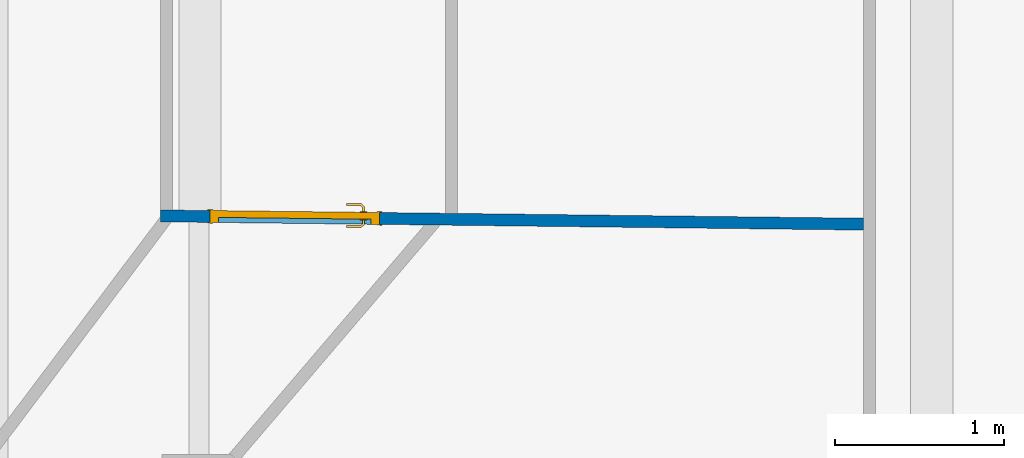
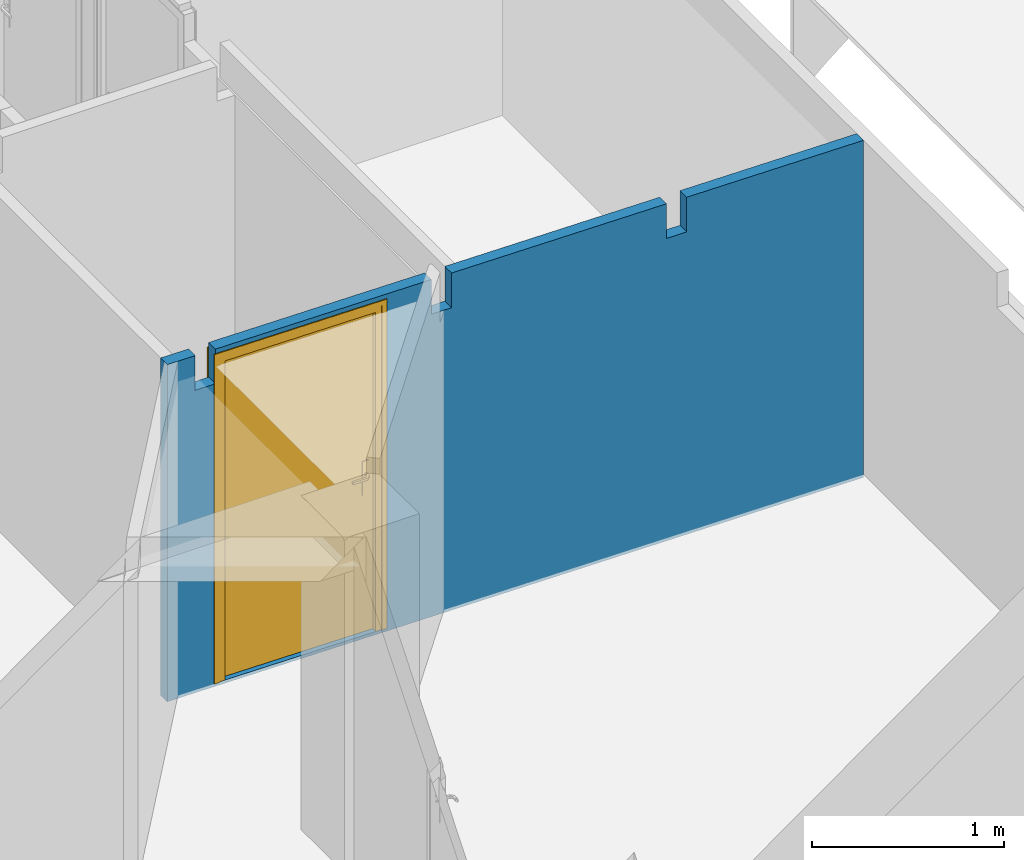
# One storey, part 14 of 32: 1 door, 1 wall, 1 opening.
"""IFC4 building model written with IfcOpenShell, lengths in metres."""

from ifc_helpers import new_model, entity, si_unit, converted_unit, derived_unit, direction, frame, origin, place, context, subcontext, project, spatial, indexed_curve, outline, extrude, polygons, source, transform, mapped, material, material_list, layer, layer_set, constituent, constituent_set, type_object, type_shapes, element, fill, save


model = new_model("IFC4")

# Units and contexts
model_context = context("Model", 3, precision=1e-05, world=origin(), true_north=direction((6.12303176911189e-17, 1.0)))
body_context = subcontext(model_context, "Body", "Model", "MODEL_VIEW")
ifc_project = project(units=[si_unit("LENGTHUNIT", "METRE"), si_unit("AREAUNIT", "SQUARE_METRE"), si_unit("VOLUMEUNIT", "CUBIC_METRE"), converted_unit("PLANEANGLEUNIT", "DEGREE", entity("IfcRatioMeasure", 0.0174532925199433), si_unit("PLANEANGLEUNIT", "RADIAN"), dimensions=[0, 0, 0, 0, 0, 0, 0]), si_unit("MASSUNIT", "GRAM", prefix="KILO"), derived_unit("MASSDENSITYUNIT", [(si_unit("MASSUNIT", "GRAM", prefix="KILO"), 1), (si_unit("LENGTHUNIT", "METRE"), -3)]), derived_unit("MOMENTOFINERTIAUNIT", [(si_unit("LENGTHUNIT", "METRE"), 4)]), si_unit("TIMEUNIT", "SECOND"), si_unit("FREQUENCYUNIT", "HERTZ"), si_unit("THERMODYNAMICTEMPERATUREUNIT", "DEGREE_CELSIUS"), derived_unit("THERMALTRANSMITTANCEUNIT", [(si_unit("MASSUNIT", "GRAM", prefix="KILO"), 1), (si_unit("THERMODYNAMICTEMPERATUREUNIT", "KELVIN"), -1), (si_unit("TIMEUNIT", "SECOND"), -3)]), derived_unit("VOLUMETRICFLOWRATEUNIT", [(si_unit("LENGTHUNIT", "METRE"), 3), (si_unit("TIMEUNIT", "SECOND"), -1)]), si_unit("ELECTRICCURRENTUNIT", "AMPERE"), si_unit("ELECTRICVOLTAGEUNIT", "VOLT"), si_unit("POWERUNIT", "WATT"), si_unit("FORCEUNIT", "NEWTON", prefix="KILO"), si_unit("ILLUMINANCEUNIT", "LUX"), si_unit("LUMINOUSFLUXUNIT", "LUMEN"), si_unit("LUMINOUSINTENSITYUNIT", "CANDELA"), derived_unit("USERDEFINED", [(si_unit("MASSUNIT", "GRAM", prefix="KILO"), -1), (si_unit("LENGTHUNIT", "METRE"), -2), (si_unit("TIMEUNIT", "SECOND"), 3), (si_unit("LUMINOUSFLUXUNIT", "LUMEN"), 1)]), derived_unit("LINEARVELOCITYUNIT", [(si_unit("LENGTHUNIT", "METRE"), 1), (si_unit("TIMEUNIT", "SECOND"), -1)]), si_unit("PRESSUREUNIT", "PASCAL"), derived_unit("USERDEFINED", [(si_unit("LENGTHUNIT", "METRE"), -2), (si_unit("MASSUNIT", "GRAM", prefix="KILO"), 1), (si_unit("TIMEUNIT", "SECOND"), -2)]), derived_unit("LINEARFORCEUNIT", [(si_unit("MASSUNIT", "GRAM", prefix="KILO"), 1), (si_unit("LENGTHUNIT", "METRE"), 1), (si_unit("TIMEUNIT", "SECOND"), -2), (si_unit("LENGTHUNIT", "METRE"), -1)]), derived_unit("PLANARFORCEUNIT", [(si_unit("MASSUNIT", "GRAM", prefix="KILO"), 1), (si_unit("LENGTHUNIT", "METRE"), 1), (si_unit("TIMEUNIT", "SECOND"), -2), (si_unit("LENGTHUNIT", "METRE"), -2)])], contexts=[model_context])

# Site, building, storey
site_placement = place(None, origin())
site = spatial("IfcSite", under=ifc_project, at=site_placement, Name="Default", CompositionType="ELEMENT")
building_placement = place(site_placement, origin())
building = spatial("IfcBuilding", under=site, at=building_placement, Name="HOTEL CONSULAIRE BOULOGNE SUR MER", CompositionType="ELEMENT")
storey_placement = place(building_placement, frame((0.0, 0.0, -2.70343668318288)))
storey = spatial("IfcBuildingStorey", under=building, at=storey_placement, Name="SS1", CompositionType="ELEMENT", Elevation=-2.70343668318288)

# Wall, opening, door
ifc_material_1 = material(Name="Mur par défaut", Category="Divers")
ifc_layer = layer(ifc_material_1, 0.07, Name="Mur par défaut", Category="Divers")
ifc_layer_set = layer_set([ifc_layer], Name="Mur de base:Générique - Int. 70 mm")
wall_type = type_object("IfcWallType", Name="Mur de base:Générique - Int. 70 mm", PredefinedType="NOTDEFINED", material=ifc_layer_set)
wall_placement = place(storey_placement, frame((11.0826384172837, -18.243371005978, 0.294), z_axis=(0.0, 0.0, 1.0), x_axis=(-0.999930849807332, 0.0117599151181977, 0.0)))
wall = element("IfcWall", 1, at=wall_placement, inside=storey, type_object=wall_type, material=ifc_layer_set, Name="Mur de base:Générique - Int. 70 mm", ObjectType="Mur de base:Générique - Int. 70 mm", PredefinedType="NOTDEFINED", context=body_context, shape_type="Tessellation", body=[
    polygons([(3.86418002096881, -0.0349999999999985, 2.13943668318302), (3.86335676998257, 0.0349999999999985, 2.13943668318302), (3.81035310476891, 0.0349999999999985, 2.13943668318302), (2.57538322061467, 0.0349999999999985, 2.13943668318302), (2.57552173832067, 0.0232220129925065, 2.13943668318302), (2.57620647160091, -0.0349999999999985, 2.13943668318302), (2.45619817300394, -0.0350000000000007, 2.13943668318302), (2.45553003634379, 0.0218108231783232, 2.13943668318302), (2.4553749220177, 0.0349999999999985, 2.13943668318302), (1.17428633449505, 0.0350000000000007, 2.13943668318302), (1.17442177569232, 0.0234836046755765, 2.13943668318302), (1.17510958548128, -0.0350000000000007, 2.13943668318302), (2.39861192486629, -0.0349999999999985, 2.13943668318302), (-9.81348335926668e-16, 0.0350000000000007, 2.13943668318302), (0.000823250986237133, -0.0349999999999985, 2.13943668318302), (1.05510128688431, -0.0349999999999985, 2.13943668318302), (1.05443007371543, 0.0220724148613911, 2.13943668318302), (1.05427803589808, 0.0349999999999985, 2.13943668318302), (0.000823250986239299, -0.0349999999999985, 2.70716782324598e-16), (4.15073308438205, -0.0350000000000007, 2.70716782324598e-16), (4.15073308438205, -0.0350000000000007, 0.0199904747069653), (4.15073308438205, -0.0350000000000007, 2.13943668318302), (4.08072824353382, -0.0349999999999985, 2.13943668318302), (3.98418831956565, -0.0350000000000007, 2.13943668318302), (3.98418831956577, -0.0349999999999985, 1.91943668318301), (3.86418002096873, -0.0349999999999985, 1.91943668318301), (2.57620647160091, -0.0349999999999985, 1.91943668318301), (2.46861676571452, -0.0349999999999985, 1.91943668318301), (2.45619817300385, -0.0350000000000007, 1.91943668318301), (1.17510958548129, -0.0349999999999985, 1.91943668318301), (1.05510128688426, -0.0349999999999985, 1.91943668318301), (3.85739392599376, -0.0349999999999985, 2.095), (3.85739392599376, -0.0349999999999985, 0.0199999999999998), (2.85739392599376, -0.0350000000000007, 0.0199999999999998), (2.85739392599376, -0.0350000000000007, 2.095), (4.14990983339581, 0.0349999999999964, 2.70716782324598e-16), (1.18438592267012e-15, 0.0350000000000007, 2.70716782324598e-16), (1.05427803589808, 0.0349999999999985, 1.91943668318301), (1.17428633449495, 0.0349999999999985, 1.91943668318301), (2.4553749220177, 0.0349999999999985, 1.91943668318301), (2.4994257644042, 0.0350000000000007, 1.91943668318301), (2.57538322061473, 0.0349999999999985, 1.91943668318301), (3.86335676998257, 0.0349999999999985, 1.91943668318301), (3.98336506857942, 0.0349999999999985, 1.91943668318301), (3.98336506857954, 0.0350000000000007, 2.13943668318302), (4.08628885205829, 0.0349999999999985, 2.13943668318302), (4.14990983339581, 0.0349999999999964, 2.13943668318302), (4.14990983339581, 0.0349999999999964, 0.0199904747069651), (3.85739392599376, 0.0350000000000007, 0.0199999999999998), (3.85739392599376, 0.0350000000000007, 2.095), (2.85739392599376, 0.0349999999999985, 2.095), (2.85739392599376, 0.0349999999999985, 0.0199999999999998), (4.1502760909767, 0.00385757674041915, 2.13943668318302), (2.45553003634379, 0.0218108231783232, 1.91943668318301), (2.57552173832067, 0.0232220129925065, 1.91943668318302), (1.05443007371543, 0.0220724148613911, 1.91943668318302), (1.17442177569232, 0.0234836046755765, 1.91943668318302)], [[[6, 1, 2, 3, 4, 5]], [[13, 7, 8, 9, 10, 11, 12]], [[15, 16, 17, 18, 14]], [[23, 22, 53, 47, 46, 45, 24]], [[49, 52, 34, 33]], [[44, 43, 26, 25]], [[28, 27, 55, 42, 41, 40, 54, 29]], [[31, 30, 57, 39, 38, 56]], [[19, 20, 21, 22, 23, 24, 25, 26, 1, 6, 27, 28, 29, 7, 13, 12, 30, 31, 16, 15], [34, 35, 32, 33]], [[48, 36, 37, 14, 18, 38, 39, 10, 9, 40, 41, 42, 4, 3, 2, 43, 44, 45, 46, 47], [49, 50, 51, 52]], [[20, 19, 37, 36]], [[51, 50, 32, 35]], [[37, 19, 15, 14]], [[44, 25, 24, 45]], [[55, 27, 6, 5, 4, 42]], [[57, 30, 12, 11, 10, 39]], [[50, 49, 33, 32]], [[52, 51, 35, 34]], [[21, 20, 36, 48, 47, 53, 22]], [[2, 1, 26, 43]], [[8, 7, 29, 54, 40, 9]], [[17, 16, 31, 56, 38, 18]]], closed=True),
])
opening_placement = place(wall_placement, frame((3.85739392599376, 0.035, 0.0199999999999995)))
opening = element("IfcOpeningElement", 2, at=opening_placement, cuts=wall, Name="Int. Simple:PP0.93x2.04:1", ObjectType="Opening", PredefinedType="OPENING", context=body_context, shape_type="SweptSolid", body=[
    extrude(outline(indexed_curve([(0.0, 0.0), (2.075, 0.0), (2.075, 1.0), (0.0, 1.0), (0.0, 0.0)], self_intersect=False)), frame((0.0, 0.0, 0.0), z_axis=(0.0, -1.0, 0.0), x_axis=(0.0, 0.0, 1.0)), (0.0, 0.0, 1.0), 0.07),
])
ifc_material_2 = material(Name="Finition Peinture - Blanc satiné", Category="Peinture")
ifc_constituent_1 = constituent(ifc_material_2, Name="Finition Peinture - Blanc satiné", Category="Matériaux")
ifc_material_3 = material(Name="Bois - Panneau de porte", Category="Bois")
ifc_constituent_2 = constituent(ifc_material_3, Name="Bois - Panneau de porte", Category="Matériaux")
ifc_material_4 = material(Name="Bois - Cadre de porte", Category="Bois")
ifc_constituent_3 = constituent(ifc_material_4, Name="Bois - Cadre de porte", Category="Matériaux")
ifc_constituent_set = constituent_set(constituents=[ifc_constituent_1, ifc_constituent_2, ifc_constituent_3], Name="MaterialConstituentSet")
ifc_material_list = material_list([ifc_material_2, ifc_material_4, ifc_material_4, ifc_material_3])
door_type = type_object("IfcDoorType", Name="Int. Simple:PP0.93x2.04", OperationType="NOTDEFINED", PredefinedType="DOOR", material=ifc_material_list)
shared_shape = source(origin(), body_context, "Body", "Tessellation", [
    polygons([(0.075000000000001, -0.00500000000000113, 0.870000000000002), (0.0846472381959, -0.00500000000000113, 0.866003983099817), (0.0950000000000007, -0.00500000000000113, 0.86464101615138), (0.105352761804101, -0.00500000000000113, 0.866003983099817), (0.115, -0.00500000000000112, 0.870000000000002), (0.114999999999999, -0.00500000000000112, 1.08), (0.1053527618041, -0.00500000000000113, 1.08399601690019), (0.0949999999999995, -0.00500000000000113, 1.08535898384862), (0.0846472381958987, -0.00500000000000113, 1.08399601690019), (0.0749999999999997, -0.00500000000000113, 1.08), (0.0749999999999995, -1.1420864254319e-15, 0.870000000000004), (0.0749999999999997, -1.1420864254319e-15, 1.08), (0.0846472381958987, -1.13785647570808e-15, 1.08399601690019), (0.0949999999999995, -1.13362652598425e-15, 1.08535898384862), (0.1053527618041, -1.12939657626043e-15, 1.08399601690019), (0.114999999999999, -1.12516662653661e-15, 1.08), (0.115, -1.12516662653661e-15, 0.870000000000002), (0.105352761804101, -1.12939657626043e-15, 0.866003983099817), (0.0950000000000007, -1.13362652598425e-15, 0.86464101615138), (0.0846472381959, -1.13785647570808e-15, 0.866003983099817)], [[[4, 5, 6, 7, 8, 9, 10, 1, 2, 3]], [[15, 16, 17, 18, 19, 20, 11, 12, 13, 14]], [[11, 20, 2, 1]], [[2, 20, 19, 3]], [[19, 18, 4, 3]], [[18, 17, 5, 4]], [[6, 5, 17, 16]], [[16, 15, 7, 6]], [[7, 15, 14, 8]], [[14, 13, 9, 8]], [[13, 12, 10, 9]], [[1, 10, 12, 11]]], closed=True),
    polygons([(0.114999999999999, 0.0399999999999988, 1.08), (0.1053527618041, 0.0399999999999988, 1.08399601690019), (0.0949999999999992, 0.0399999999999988, 1.08535898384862), (0.0846472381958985, 0.0399999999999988, 1.08399601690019), (0.0749999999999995, 0.0399999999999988, 1.08), (0.075000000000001, 0.0399999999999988, 0.870000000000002), (0.0846472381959, 0.0399999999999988, 0.866003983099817), (0.0950000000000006, 0.0399999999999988, 0.86464101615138), (0.105352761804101, 0.0399999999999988, 0.866003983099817), (0.115, 0.0399999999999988, 0.870000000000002), (0.114999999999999, 0.0449999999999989, 1.08), (0.115, 0.0449999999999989, 0.870000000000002), (0.105352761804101, 0.0449999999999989, 0.866003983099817), (0.0950000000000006, 0.0449999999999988, 0.86464101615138), (0.0846472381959, 0.0449999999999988, 0.866003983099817), (0.0749999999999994, 0.0449999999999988, 0.870000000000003), (0.0749999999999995, 0.0449999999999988, 1.08), (0.0846472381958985, 0.0449999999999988, 1.08399601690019), (0.0949999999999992, 0.0449999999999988, 1.08535898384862), (0.1053527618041, 0.0449999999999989, 1.08399601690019)], [[[9, 10, 1, 2, 3, 4, 5, 6, 7, 8]], [[20, 11, 12, 13, 14, 15, 16, 17, 18, 19]], [[11, 20, 2, 1]], [[2, 20, 19, 3]], [[19, 18, 4, 3]], [[18, 17, 5, 4]], [[6, 5, 17, 16]], [[16, 15, 7, 6]], [[7, 15, 14, 8]], [[14, 13, 9, 8]], [[13, 12, 10, 9]], [[1, 10, 12, 11]]], closed=True),
    polygons([(0.0889999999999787, -0.00500000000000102, 1.007), (0.0929747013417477, -0.005000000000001, 1.00778044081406), (0.097025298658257, -0.00500000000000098, 1.00778044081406), (0.101000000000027, -0.00500000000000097, 1.00699999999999), (0.101000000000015, -0.00500000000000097, 0.993000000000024), (0.0970252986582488, -0.00500000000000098, 0.992219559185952), (0.0929747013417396, -0.005000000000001, 0.99221955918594), (0.0889999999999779, -0.00500000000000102, 0.992999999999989), (0.0889999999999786, -0.0326509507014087, 1.007), (0.0929747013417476, -0.0310045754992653, 1.00778044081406), (0.0970252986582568, -0.029326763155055, 1.00778044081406), (0.101000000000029, -0.0276803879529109, 1.007), (0.101000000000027, -0.0276803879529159, 0.993000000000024), (0.0970252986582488, -0.0293267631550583, 0.992219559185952), (0.0929747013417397, -0.0310045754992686, 0.99221955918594), (0.0889999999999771, -0.0326509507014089, 0.992999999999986), (0.107377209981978, -0.0510281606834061, 1.007), (0.109023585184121, -0.0470534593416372, 1.00778044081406), (0.110701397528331, -0.043002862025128, 1.00778044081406), (0.112347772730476, -0.0390281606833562, 1.007), (0.112347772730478, -0.0390281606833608, 0.993000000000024), (0.110701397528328, -0.0430028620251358, 0.992219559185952), (0.109023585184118, -0.047053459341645, 0.99221955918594), (0.107377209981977, -0.0510281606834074, 0.992999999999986), (0.195018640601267, -0.0510281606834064, 1.00699999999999), (0.195018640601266, -0.0510281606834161, 0.992999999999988), (0.195018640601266, -0.0470534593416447, 0.99221955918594), (0.195018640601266, -0.0430028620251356, 0.992219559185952), (0.195018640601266, -0.039028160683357, 0.993000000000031), (0.195018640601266, -0.0390281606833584, 1.007), (0.195018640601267, -0.0430028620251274, 1.00778044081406), (0.195018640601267, -0.0470534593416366, 1.00778044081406), (0.147307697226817, -0.0510281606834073, 1.007), (0.152860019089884, -0.0450281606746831, 1.0078786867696), (0.15368320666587, -0.0390281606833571, 1.007), (0.147307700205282, -0.0510281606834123, 0.992999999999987), (0.152860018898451, -0.0450281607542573, 0.992121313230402), (0.153683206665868, -0.039028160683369, 0.993000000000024)], [[[2, 3, 4, 5, 6, 7, 8, 1]], [[21, 20, 35, 30, 29, 38]], [[9, 10, 2, 1]], [[10, 18, 19, 11, 3, 2]], [[11, 12, 4, 3]], [[5, 4, 12, 13]], [[26, 27, 28, 29, 30, 31, 32, 25]], [[13, 14, 6, 5]], [[14, 22, 23, 15, 7, 6]], [[15, 16, 8, 7]], [[1, 8, 16, 9]], [[17, 18, 10, 9]], [[19, 20, 12, 11]], [[13, 12, 20, 21]], [[21, 22, 14, 13]], [[23, 24, 16, 15]], [[9, 16, 24, 17]], [[33, 32, 34]], [[25, 32, 33]], [[18, 17, 33]], [[34, 35, 19]], [[20, 19, 35]], [[35, 31, 30]], [[32, 31, 34]], [[31, 35, 34]], [[18, 33, 34]], [[18, 34, 19]], [[38, 28, 37]], [[36, 37, 27]], [[21, 38, 22]], [[38, 29, 28]], [[26, 36, 27]], [[24, 23, 36]], [[36, 23, 37]], [[23, 22, 37]], [[22, 38, 37]], [[27, 37, 28]], [[17, 24, 36, 26, 25, 33]]], closed=True),
    polygons([(0.10100000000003, 0.044999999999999, 0.993000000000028), (0.101000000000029, 0.044999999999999, 1.007), (0.0970252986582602, 0.044999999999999, 1.00778044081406), (0.092974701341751, 0.044999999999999, 1.00778044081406), (0.0889999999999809, 0.044999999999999, 1.007), (0.0889999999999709, 0.044999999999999, 0.992999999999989), (0.0929747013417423, 0.044999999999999, 0.99221955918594), (0.0970252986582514, 0.044999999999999, 0.992219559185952), (0.10100000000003, 0.067485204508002, 0.993000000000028), (0.10100000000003, 0.0674852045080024, 1.007), (0.0970252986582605, 0.0691315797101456, 1.00778044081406), (0.0929747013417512, 0.0708093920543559, 1.00778044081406), (0.088999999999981, 0.0724557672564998, 1.007), (0.0889999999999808, 0.072455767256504, 0.992999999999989), (0.092974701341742, 0.0708093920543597, 0.99221955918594), (0.0970252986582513, 0.0691315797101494, 0.992219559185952), (0.112485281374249, 0.0789704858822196, 0.993000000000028), (0.112485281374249, 0.0789704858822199, 1.007), (0.110838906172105, 0.0829451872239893, 1.00778044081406), (0.109161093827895, 0.0869957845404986, 1.00778044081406), (0.107514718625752, 0.0909704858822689, 1.007), (0.107514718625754, 0.090970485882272, 0.992999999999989), (0.109161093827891, 0.0869957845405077, 0.99221955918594), (0.110838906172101, 0.0829451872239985, 0.992219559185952), (0.195045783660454, 0.078970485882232, 0.993000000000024), (0.195045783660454, 0.0829451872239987, 0.992219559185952), (0.195045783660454, 0.0869957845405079, 0.99221955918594), (0.195045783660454, 0.0909704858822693, 0.992999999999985), (0.195045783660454, 0.0909704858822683, 1.007), (0.195045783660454, 0.0869957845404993, 1.00778044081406), (0.195045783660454, 0.08294518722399, 1.00778044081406), (0.195045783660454, 0.0789704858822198, 1.007), (0.147445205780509, 0.0909704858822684, 1.007), (0.152942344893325, 0.0849704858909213, 1.0078786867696), (0.153765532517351, 0.0789704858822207, 1.007), (0.147445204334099, 0.0909704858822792, 0.992999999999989), (0.152942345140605, 0.0849704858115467, 0.992121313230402), (0.153765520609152, 0.0789704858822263, 0.993000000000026)], [[[4, 5, 6, 7, 8, 1, 2, 3]], [[18, 17, 38, 25, 32, 35]], [[2, 1, 9, 10]], [[25, 26, 27, 28, 29, 30, 31, 32]], [[10, 11, 3, 2]], [[11, 19, 20, 12, 4, 3]], [[12, 13, 5, 4]], [[6, 5, 13, 14]], [[14, 15, 7, 6]], [[15, 23, 24, 16, 8, 7]], [[16, 9, 1, 8]], [[10, 9, 17, 18]], [[18, 19, 11, 10]], [[20, 21, 13, 12]], [[14, 13, 21, 22]], [[22, 23, 15, 14]], [[24, 17, 9, 16]], [[35, 31, 34]], [[33, 34, 30]], [[18, 35, 19]], [[35, 32, 31]], [[29, 33, 30]], [[21, 20, 33]], [[33, 20, 34]], [[20, 19, 34]], [[19, 35, 34]], [[30, 34, 31]], [[21, 33, 29, 28, 36, 22]], [[36, 27, 37]], [[28, 27, 36]], [[23, 22, 36]], [[37, 38, 24]], [[17, 24, 38]], [[38, 26, 25]], [[27, 26, 37]], [[26, 38, 37]], [[23, 36, 37]], [[23, 37, 24]]], closed=True),
    polygons([(0.0349999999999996, 0.04, 2.04), (0.965, 0.04, 2.04), (0.965, 0.04, 0.0), (0.0349999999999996, 0.04, 0.0), (0.0349999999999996, -4.22994972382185e-17, 2.04), (0.0349999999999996, -4.22994972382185e-17, 0.0), (0.965, -4.22994972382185e-17, 0.0), (0.965, -4.22994972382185e-17, 2.04)], [[[4, 1, 2, 3]], [[7, 8, 5, 6]], [[2, 1, 5, 8]], [[3, 2, 8, 7]], [[4, 3, 7, 6]], [[1, 4, 6, 5]]], closed=True),
    polygons([(-1.52954982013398e-14, 4.22994972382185e-18, 0.0), (-1.52954982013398e-14, 0.0699999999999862, 0.0), (0.0500000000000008, 0.0699999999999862, 0.0), (0.0500000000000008, 0.04, 0.0), (0.0349999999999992, 0.04, 0.0), (0.0349999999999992, 4.22994972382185e-18, 0.0), (-1.51601398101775e-14, 4.22994972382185e-18, 2.07500000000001), (-1.51601398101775e-14, 0.0699999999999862, 2.07500000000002), (1.00000000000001, 0.0699999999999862, 2.07500000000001), (1.00000000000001, 0.0699999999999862, 5.63787022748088e-24), (0.949999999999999, 0.0699999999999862, 3.74237989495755e-24), (0.949999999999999, 0.0699999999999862, 2.025), (0.0500000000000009, 0.0699999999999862, 2.025), (0.0500000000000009, 0.04, 2.025), (0.949999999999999, 0.04, 2.025), (0.949999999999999, 0.04, -5.82688076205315e-24), (0.965, 0.04, 3.55589136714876e-24), (0.965000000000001, 0.04, 2.04), (0.0349999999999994, 0.04, 2.04), (0.0349999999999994, 4.22994972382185e-18, 2.04), (0.965, 4.22994972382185e-18, 2.04), (0.965, 4.22994972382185e-18, -1.66105658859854e-24), (1.00000000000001, 4.22994972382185e-18, -7.90980308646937e-25), (1.00000000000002, 4.22994972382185e-18, 2.07500000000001)], [[[5, 6, 1, 2, 3, 4]], [[16, 11, 10, 23, 22, 17]], [[14, 13, 12, 15]], [[20, 19, 18, 21]], [[2, 1, 7, 8]], [[15, 12, 11, 16]], [[21, 18, 17, 22]], [[3, 2, 8, 9, 10, 11, 12, 13]], [[4, 3, 13, 14]], [[6, 5, 19, 20]], [[9, 24, 23, 10]], [[16, 17, 18, 19, 5, 4, 14, 15]], [[22, 23, 24, 7, 1, 6, 20, 21]], [[8, 7, 24, 9]]], closed=True),
    polygons([(0.0149999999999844, 0.0699999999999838, 0.0), (-0.0150000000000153, 0.0699999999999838, 0.0), (-0.0150000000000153, 0.0749999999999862, 0.0), (0.0149999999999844, 0.0749999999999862, 0.0), (0.0149999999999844, 0.0699999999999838, 2.06000000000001), (0.98499999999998, 0.0699999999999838, 2.06000000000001), (0.98499999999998, 0.0699999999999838, -1.80158915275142e-24), (1.01499999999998, 0.0699999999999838, -9.00794253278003e-25), (1.01499999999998, 0.0699999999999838, 2.09000000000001), (-0.0150000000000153, 0.0699999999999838, 2.09000000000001), (-0.0150000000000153, 0.0749999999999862, 2.09000000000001), (1.01499999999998, 0.0749999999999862, 2.09000000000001), (1.01499999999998, 0.0749999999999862, -4.03399441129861e-24), (0.98499999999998, 0.0749999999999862, -4.03399441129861e-24), (0.98499999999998, 0.0749999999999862, 2.06000000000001), (0.0149999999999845, 0.0749999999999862, 2.06000000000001)], [[[2, 3, 4, 1]], [[14, 13, 8, 7]], [[5, 16, 15, 6]], [[7, 8, 9, 10, 2, 1, 5, 6]], [[3, 2, 10, 11]], [[6, 15, 14, 7]], [[4, 3, 11, 12, 13, 14, 15, 16]], [[1, 4, 16, 5]], [[12, 9, 8, 13]], [[11, 10, 9, 12]]], closed=True),
    polygons([(0.0149999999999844, -0.00499999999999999, 0.0), (-0.0150000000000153, -0.00499999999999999, 0.0), (-0.0150000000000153, -8.2484019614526e-16, 0.0), (0.0149999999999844, -8.2484019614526e-16, 0.0), (0.98499999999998, -0.00499999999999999, 5.41433564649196e-16), (0.98499999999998, -8.2484019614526e-16, 5.41433564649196e-16), (1.01499999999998, -8.2484019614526e-16, 5.41433564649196e-16), (1.01499999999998, -0.00499999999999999, 5.41433564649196e-16), (0.0149999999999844, -0.00499999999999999, 2.06000000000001), (0.98499999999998, -0.00499999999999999, 2.06000000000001), (1.01499999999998, -0.00499999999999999, 2.09000000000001), (-0.0150000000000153, -0.00499999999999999, 2.09000000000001), (-0.0150000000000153, -8.2484019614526e-16, 2.09000000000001), (1.01499999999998, -8.2484019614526e-16, 2.09000000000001), (0.98499999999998, -8.2484019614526e-16, 2.06000000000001), (0.0149999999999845, -8.2484019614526e-16, 2.06000000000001)], [[[2, 3, 4, 1]], [[6, 7, 8, 5]], [[9, 16, 15, 10]], [[5, 8, 11, 12, 2, 1, 9, 10]], [[3, 2, 12, 13]], [[10, 15, 6, 5]], [[4, 3, 13, 14, 7, 6, 15, 16]], [[1, 4, 16, 9]], [[14, 11, 8, 7]], [[13, 12, 11, 14]]], closed=True),
])
type_shapes(door_type, [shared_shape])
door_placement = place(opening_placement, frame((-1.0, -0.0699999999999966, 0.0)))
door = element("IfcDoor", 3, at=door_placement, inside=storey, type_object=door_type, material=ifc_constituent_set, Name="Int. Simple:PP0.93x2.04", ObjectType="Int. Simple:PP0.93x2.04", OperationType="NOTDEFINED", OverallHeight=2.075, OverallWidth=1.0, PredefinedType="DOOR", context=body_context, shape_type="MappedRepresentation", body=[
    mapped(shared_shape, transform((0.0, 0.0, 0.0), scale=1.0)),
])
fill(opening, door)

save(model, "model.ifc")
